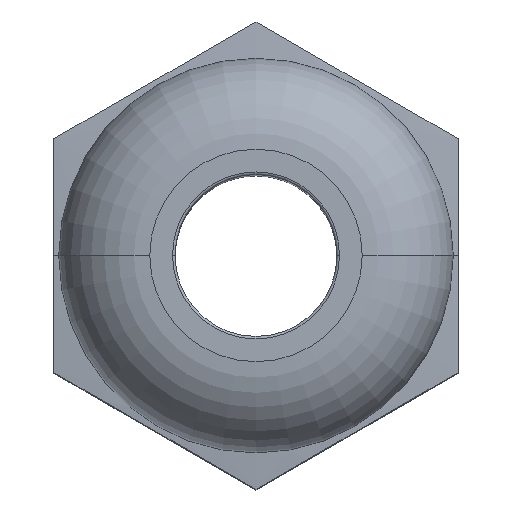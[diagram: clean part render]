
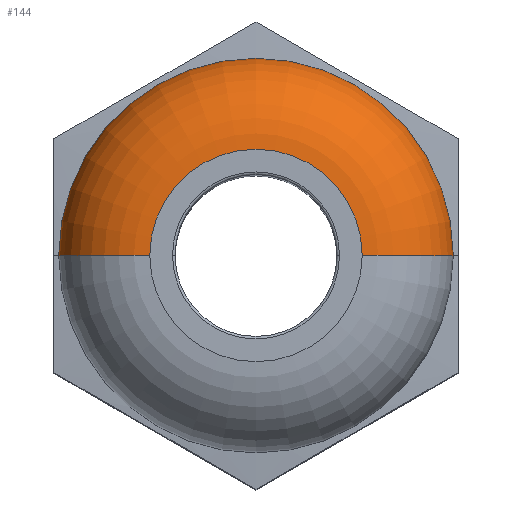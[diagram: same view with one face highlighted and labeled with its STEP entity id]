
A CAD part, top view. The second image highlights one B-rep face of the part: STEP entity #144.
In plain terms, the highlighted toroidal (fillet/blend) face has major radius 2.1 mm and minor radius 1.8 mm.
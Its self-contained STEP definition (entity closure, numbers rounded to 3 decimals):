
#62 = EDGE_CURVE ( 'NONE', #63, #137, #1166, .T. ) ;
#63 = VERTEX_POINT ( 'NONE', #1096 ) ;
#70 = EDGE_CURVE ( 'NONE', #63, #86, #1054, .T. ) ;
#77 = EDGE_LOOP ( 'NONE', ( #136, #133, #78, #80 ) ) ;
#78 = ORIENTED_EDGE ( 'NONE', *, *, #85, .F. ) ;
#80 = ORIENTED_EDGE ( 'NONE', *, *, #70, .F. ) ;
#85 = EDGE_CURVE ( 'NONE', #86, #147, #1005, .T. ) ;
#86 = VERTEX_POINT ( 'NONE', #1149 ) ;
#133 = ORIENTED_EDGE ( 'NONE', *, *, #146, .T. ) ;
#136 = ORIENTED_EDGE ( 'NONE', *, *, #62, .T. ) ;
#137 = VERTEX_POINT ( 'NONE', #1125 ) ;
#144 = ADVANCED_FACE ( 'NONE', ( #1042 ), #1225, .T. ) ;
#146 = EDGE_CURVE ( 'NONE', #137, #147, #1221, .T. ) ;
#147 = VERTEX_POINT ( 'NONE', #1331 ) ;
#1003 = CARTESIAN_POINT ( 'NONE',  ( 0., 0., 14.7 ) ) ;
#1004 = AXIS2_PLACEMENT_3D ( 'NONE', #1003, #1151, #1150 ) ;
#1005 = CIRCLE ( 'NONE', #1004, 3.9 ) ;
#1042 = FACE_OUTER_BOUND ( 'NONE', #77, .T. ) ;
#1050 = DIRECTION ( 'NONE',  ( 0., 0., -1. ) ) ;
#1051 = DIRECTION ( 'NONE',  ( 0., -1., 0. ) ) ;
#1052 = CARTESIAN_POINT ( 'NONE',  ( -2.1, 0., 14.7 ) ) ;
#1053 = AXIS2_PLACEMENT_3D ( 'NONE', #1052, #1051, #1050 ) ;
#1054 = CIRCLE ( 'NONE', #1053, 1.8 ) ;
#1057 = AXIS2_PLACEMENT_3D ( 'NONE', #1083, #1072, #1071 ) ;
#1071 = DIRECTION ( 'NONE',  ( -1., 0., 0. ) ) ;
#1072 = DIRECTION ( 'NONE',  ( 0., 0., -1. ) ) ;
#1083 = CARTESIAN_POINT ( 'NONE',  ( 0., 0., 16.5 ) ) ;
#1096 = CARTESIAN_POINT ( 'NONE',  ( -2.1, 0., 16.5 ) ) ;
#1125 = CARTESIAN_POINT ( 'NONE',  ( 2.1, 0., 16.5 ) ) ;
#1149 = CARTESIAN_POINT ( 'NONE',  ( -3.9, 0., 14.7 ) ) ;
#1150 = DIRECTION ( 'NONE',  ( -1., 0., 0. ) ) ;
#1151 = DIRECTION ( 'NONE',  ( 0., 0., -1. ) ) ;
#1166 = CIRCLE ( 'NONE', #1057, 2.1 ) ;
#1221 = CIRCLE ( 'NONE', #1290, 1.8 ) ;
#1225 = TOROIDAL_SURFACE ( 'NONE', #1316, 2.1, 1.8 ) ;
#1235 = DIRECTION ( 'NONE',  ( -1., 0., 0. ) ) ;
#1236 = DIRECTION ( 'NONE',  ( 0., 0., -1. ) ) ;
#1280 = CARTESIAN_POINT ( 'NONE',  ( 0., 0., 14.7 ) ) ;
#1290 = AXIS2_PLACEMENT_3D ( 'NONE', #1330, #1329, #1328 ) ;
#1316 = AXIS2_PLACEMENT_3D ( 'NONE', #1280, #1236, #1235 ) ;
#1328 = DIRECTION ( 'NONE',  ( -1., 0., 0. ) ) ;
#1329 = DIRECTION ( 'NONE',  ( 0., 1., 0. ) ) ;
#1330 = CARTESIAN_POINT ( 'NONE',  ( 2.1, 0., 14.7 ) ) ;
#1331 = CARTESIAN_POINT ( 'NONE',  ( 3.9, 0., 14.7 ) ) ;
